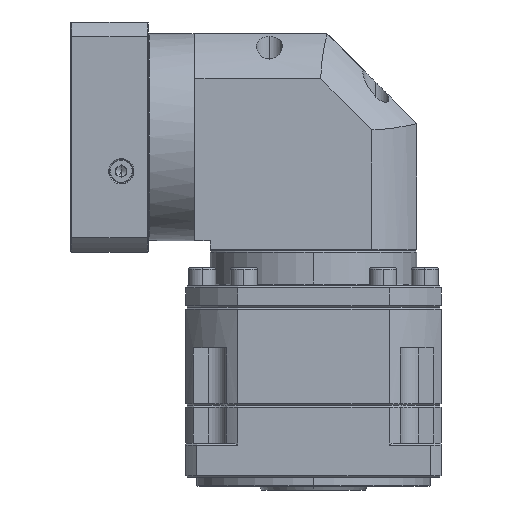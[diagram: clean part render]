
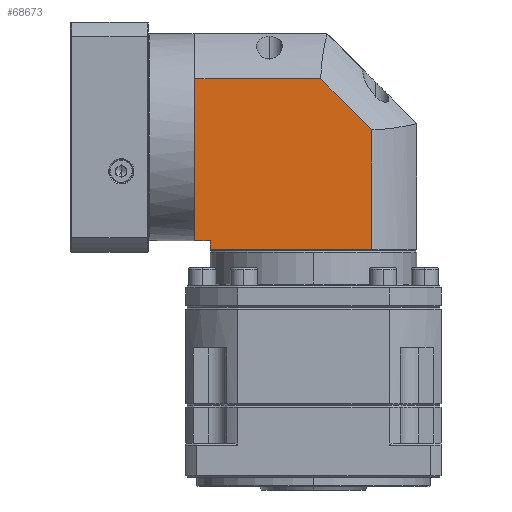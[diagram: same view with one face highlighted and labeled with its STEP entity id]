
A CAD part, left-side view. The second image highlights one B-rep face of the part: STEP entity #68673.
In plain terms, the highlighted planar face has unit normal (-1, 0, 0).
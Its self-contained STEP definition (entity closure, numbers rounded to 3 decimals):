
#5307 = FACE_OUTER_BOUND ( 'NONE', #118413, .T. ) ;
#9699 = VERTEX_POINT ( 'NONE', #133025 ) ;
#11427 = VECTOR ( 'NONE', #24707, 1000. ) ;
#14141 = LINE ( 'NONE', #86180, #126150 ) ;
#15432 = DIRECTION ( 'NONE',  ( 0., 0., -1. ) ) ;
#23183 = LINE ( 'NONE', #67962, #67312 ) ;
#23456 = DIRECTION ( 'NONE',  ( 1., 0., 0. ) ) ;
#24707 = DIRECTION ( 'NONE',  ( 0., 1., 0. ) ) ;
#32236 = EDGE_CURVE ( 'NONE', #9699, #92427, #133474, .T. ) ;
#33285 = CARTESIAN_POINT ( 'NONE',  ( -160.317, 177.824, -66.367 ) ) ;
#33419 = EDGE_CURVE ( 'NONE', #75135, #81349, #68340, .T. ) ;
#38521 = VECTOR ( 'NONE', #69816, 1000. ) ;
#38910 = EDGE_CURVE ( 'NONE', #92427, #106883, #126812, .T. ) ;
#41808 = CARTESIAN_POINT ( 'NONE',  ( -160.317, 169.424, -54.867 ) ) ;
#44763 = CARTESIAN_POINT ( 'NONE',  ( -160.317, 54.424, -59.867 ) ) ;
#45176 = ORIENTED_EDGE ( 'NONE', *, *, #32236, .F. ) ;
#57573 = DIRECTION ( 'NONE',  ( 0., -0.707, -0.707 ) ) ;
#57716 = PLANE ( 'NONE',  #132419 ) ;
#58699 = CARTESIAN_POINT ( 'NONE',  ( -160.317, 169.424, -59.867 ) ) ;
#63799 = VECTOR ( 'NONE', #15432, 1000. ) ;
#67312 = VECTOR ( 'NONE', #57573, 1000. ) ;
#67962 = CARTESIAN_POINT ( 'NONE',  ( -160.317, 107.862, 35.033 ) ) ;
#68340 = LINE ( 'NONE', #108798, #112428 ) ;
#68584 = CARTESIAN_POINT ( 'NONE',  ( -160.317, 54.424, -66.367 ) ) ;
#68673 = ADVANCED_FACE ( 'NONE', ( #5307 ), #57716, .F. ) ;
#69816 = DIRECTION ( 'NONE',  ( 0., 0., -1. ) ) ;
#75135 = VERTEX_POINT ( 'NONE', #139240 ) ;
#75347 = VERTEX_POINT ( 'NONE', #119307 ) ;
#75554 = DIRECTION ( 'NONE',  ( 0., 0., 1. ) ) ;
#78021 = CARTESIAN_POINT ( 'NONE',  ( -160.317, 79.524, -59.867 ) ) ;
#80909 = LINE ( 'NONE', #123567, #63799 ) ;
#81349 = VERTEX_POINT ( 'NONE', #41808 ) ;
#81696 = CARTESIAN_POINT ( 'NONE',  ( -160.317, 79.524, -66.367 ) ) ;
#83638 = ORIENTED_EDGE ( 'NONE', *, *, #33419, .T. ) ;
#86180 = CARTESIAN_POINT ( 'NONE',  ( -160.317, 54.424, 35.033 ) ) ;
#86699 = LINE ( 'NONE', #33285, #135940 ) ;
#90187 = EDGE_CURVE ( 'NONE', #128796, #9699, #23183, .T. ) ;
#92427 = VERTEX_POINT ( 'NONE', #78021 ) ;
#96953 = DIRECTION ( 'NONE',  ( 0., -1., 0. ) ) ;
#99450 = DIRECTION ( 'NONE',  ( 0., -1., 0. ) ) ;
#100049 = ORIENTED_EDGE ( 'NONE', *, *, #128271, .T. ) ;
#106011 = EDGE_CURVE ( 'NONE', #75135, #75347, #86699, .T. ) ;
#106883 = VERTEX_POINT ( 'NONE', #58699 ) ;
#108798 = CARTESIAN_POINT ( 'NONE',  ( -160.317, 169.424, -54.867 ) ) ;
#111827 = ORIENTED_EDGE ( 'NONE', *, *, #134909, .F. ) ;
#112428 = VECTOR ( 'NONE', #96953, 1000. ) ;
#118413 = EDGE_LOOP ( 'NONE', ( #45176, #135556, #111827, #130640, #83638, #100049, #125749 ) ) ;
#118906 = DIRECTION ( 'NONE',  ( 0., -1., 0. ) ) ;
#119307 = CARTESIAN_POINT ( 'NONE',  ( -160.317, 177.824, 35.033 ) ) ;
#119612 = CARTESIAN_POINT ( 'NONE',  ( -160.317, 107.862, 35.033 ) ) ;
#123567 = CARTESIAN_POINT ( 'NONE',  ( -160.317, 169.424, 60.133 ) ) ;
#125749 = ORIENTED_EDGE ( 'NONE', *, *, #38910, .F. ) ;
#126150 = VECTOR ( 'NONE', #118906, 1000. ) ;
#126812 = LINE ( 'NONE', #44763, #11427 ) ;
#128271 = EDGE_CURVE ( 'NONE', #81349, #106883, #80909, .T. ) ;
#128796 = VERTEX_POINT ( 'NONE', #119612 ) ;
#130640 = ORIENTED_EDGE ( 'NONE', *, *, #106011, .F. ) ;
#132419 = AXIS2_PLACEMENT_3D ( 'NONE', #68584, #23456, #99450 ) ;
#133025 = CARTESIAN_POINT ( 'NONE',  ( -160.317, 79.524, 6.695 ) ) ;
#133474 = LINE ( 'NONE', #81696, #38521 ) ;
#134909 = EDGE_CURVE ( 'NONE', #75347, #128796, #14141, .T. ) ;
#135556 = ORIENTED_EDGE ( 'NONE', *, *, #90187, .F. ) ;
#135940 = VECTOR ( 'NONE', #75554, 1000. ) ;
#139240 = CARTESIAN_POINT ( 'NONE',  ( -160.317, 177.824, -54.867 ) ) ;
